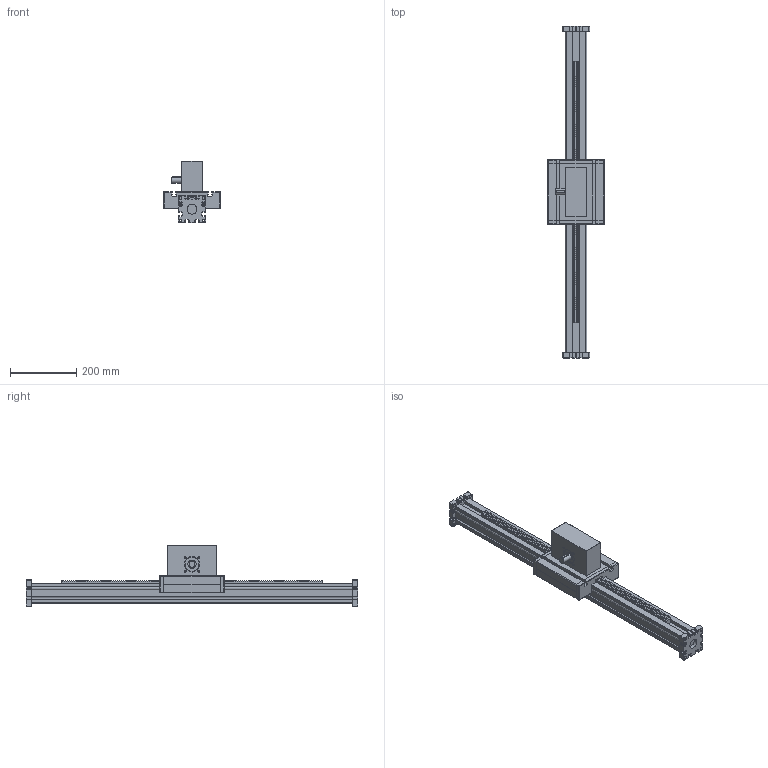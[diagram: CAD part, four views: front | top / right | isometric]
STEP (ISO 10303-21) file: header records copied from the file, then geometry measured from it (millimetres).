
FILE_DESCRIPTION (( 'STEP AP214' ), '1' );
FILE_NAME ('ELDZA60S.STEP', '2022-06-28T09:48:28', ( '' ), ( '' ), 'SwSTEP 2.0', 'SolidWorks 2020', '' );
FILE_SCHEMA (( 'AUTOMOTIVE_DESIGN' ));
Length unit declared in the file: millimetre
Products named in the file (5): ELDZA60S; profile^ELDZA60S_2x guide rods; carriage^ELDZA60S_carriage version 0; bearing block^ELDZA60S_2x guide rods; drive block^ELDZA60S_shaft pos. 1
Assembly tree (5 placements, depth 2):
  ELDZA60S
    profile^ELDZA60S_2x guide rods
    carriage^ELDZA60S_carriage version 0
    drive block^ELDZA60S_shaft pos. 1
    bearing block^ELDZA60S_2x guide rods  x2
Bounding box: 170 x 1000 x 186 mm (x, y, z)
Volume: 5553126 mm3; surface area: 743276.7 mm2
Topology: 10 solids, 10 shells, 1257 faces, 3608 edges, 2388 vertices
Faces by surface type: plane 1044, cylinder 193, torus 8, cone 8, sphere 4
Entity records: 36226 total; most frequent: CARTESIAN_POINT 6169, ORIENTED_EDGE 6012, DIRECTION 5445, EDGE_CURVE 3006, LINE 2653, VECTOR 2653, VERTEX_POINT 1992, AXIS2_PLACEMENT_3D 1396
